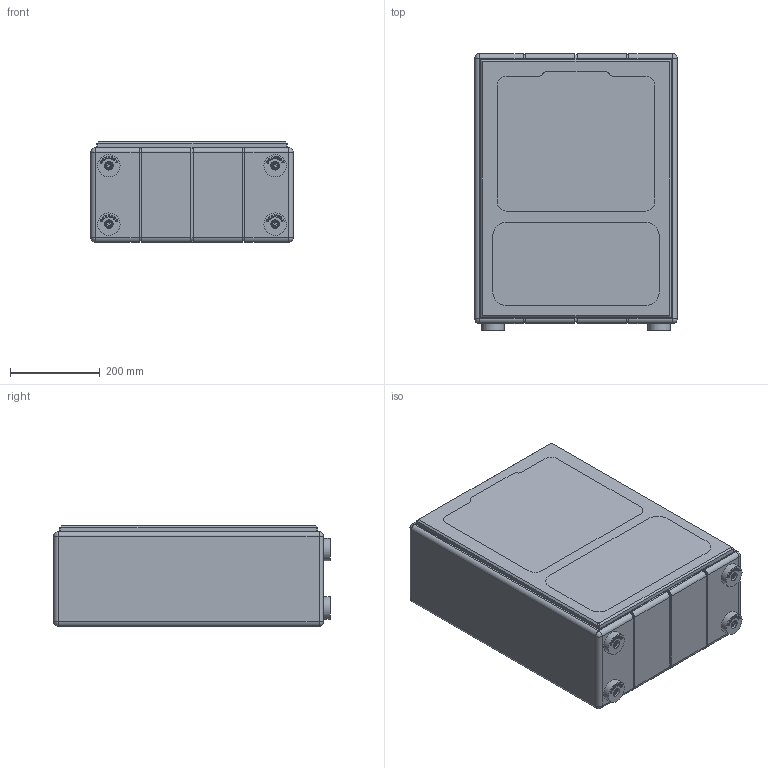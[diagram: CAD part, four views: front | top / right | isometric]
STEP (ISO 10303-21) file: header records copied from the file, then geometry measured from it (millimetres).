
FILE_DESCRIPTION(/* description */ ('','CAx-IF Rec.Pracs.---Representation and Presentation of Product Manufacturing Information (PMI)---4.0---2014-10-13'),/* implementation_level */ '2;1');
FILE_NAME(/* name */ 'The12 SUB PRO PS SH Original SOLID INTERIOR v1.step',/* time_stamp */ '2025-01-28T18:40:06+01:00',/* author */ (''),/* organization */ (''),/* preprocessor_version */ 'ST-DEVELOPER v20',/* originating_system */ 'Autodesk Translation Framework v13.20.0.188',/* authorisation */ '');
FILE_SCHEMA (('AP242_MANAGED_MODEL_BASED_3D_ENGINEERING_MIM_LF { 1 0 10303 442 1 1 4 }'));
Products named in the file (3): The12 SUB PRO PASSIVE SEALED SHALLOW_CORRECTED_UPRIGHT; COMBINE_SpeakerBox; COMBINE_Grille_CORRECTED
Assembly tree (2 placements, depth 2):
  The12 SUB PRO PASSIVE SEALED SHALLOW_CORRECTED_UPRIGHT
    COMBINE_SpeakerBox
    COMBINE_Grille_CORRECTED
Bounding box: 450 x 615 x 223.2 mm (x, y, z)
Volume: 56407683.7 mm3; surface area: 1675990 mm2
Topology: 2 solids, 53 shells, 3553 faces, 8743 edges, 5523 vertices
Faces by surface type: plane 1364, bspline 1275, cylinder 688, cone 174, torus 39, sphere 13
Full cylindrical faces by diameter (mm): 2 x2, 2.9 x36, 4 x16, 6.8 x12, 7.3 x4, 8 x19, 8.332 x8, 8.5 x4, 10 x16, 10.5 x8, 11 x8, 16 x4, 19 x4, 50 x4, 155 x1, 179 x1, 180 x1, 221 x1, 282 x1, 313 x1, 320.5 x1, 321 x1
Entity records: 205639 total; most frequent: CARTESIAN_POINT 127445, ORIENTED_EDGE 17480, DIRECTION 13934, EDGE_CURVE 8740, VERTEX_POINT 5523, AXIS2_PLACEMENT_3D 4733, LINE 4468, VECTOR 4468
